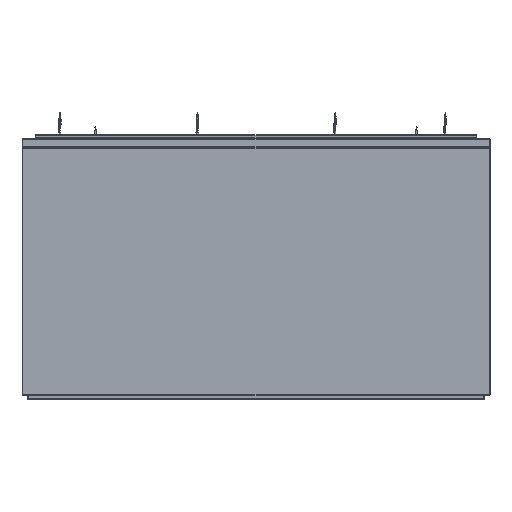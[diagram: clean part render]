
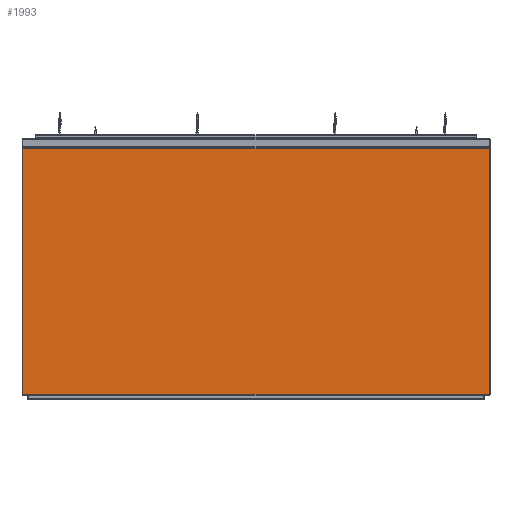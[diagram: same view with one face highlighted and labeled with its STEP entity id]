
A CAD part, top view. The second image highlights one B-rep face of the part: STEP entity #1993.
In plain terms, the highlighted planar face has unit normal (0, 0, 1).
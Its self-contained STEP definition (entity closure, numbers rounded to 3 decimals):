
#1993=ADVANCED_FACE('',(#3822),#31296,.T.);
#3822=FACE_OUTER_BOUND('',#5747,.T.);
#5747=EDGE_LOOP('',(#15184,#15185,#15186,#15187));
#15184=ORIENTED_EDGE('',*,*,#20770,.F.);
#15185=ORIENTED_EDGE('',*,*,#20771,.F.);
#15186=ORIENTED_EDGE('',*,*,#20772,.F.);
#15187=ORIENTED_EDGE('',*,*,#20769,.F.);
#20769=EDGE_CURVE('',#29423,#29424,#26160,.T.);
#20770=EDGE_CURVE('',#29425,#29423,#26161,.T.);
#20771=EDGE_CURVE('',#29426,#29425,#26162,.T.);
#20772=EDGE_CURVE('',#29424,#29426,#26163,.T.);
#26160=B_SPLINE_CURVE_WITH_KNOTS('',1,(#123718,#123719),.UNSPECIFIED.,.F.,
 .F.,(2,2),(-448.,0.),.UNSPECIFIED.);
#26161=B_SPLINE_CURVE_WITH_KNOTS('',1,(#123720,#123721),.UNSPECIFIED.,.F.,
 .F.,(2,2),(-848.,0.),.UNSPECIFIED.);
#26162=B_SPLINE_CURVE_WITH_KNOTS('',1,(#123722,#123723),.UNSPECIFIED.,.F.,
 .F.,(2,2),(-448.,0.),.UNSPECIFIED.);
#26163=B_SPLINE_CURVE_WITH_KNOTS('',1,(#123724,#123725),.UNSPECIFIED.,.F.,
 .F.,(2,2),(-848.,0.),.UNSPECIFIED.);
#29423=VERTEX_POINT('',#123644);
#29424=VERTEX_POINT('',#123645);
#29425=VERTEX_POINT('',#123646);
#29426=VERTEX_POINT('',#123647);
#31296=PLANE('',#32777);
#32777=AXIS2_PLACEMENT_3D('',#123580,#34237,$);
#34237=DIRECTION('',(0.,0.,1.));
#123580=CARTESIAN_POINT('',(-511.928,-298.735,885.822));
#123644=CARTESIAN_POINT('',(420.873,194.065,885.822));
#123645=CARTESIAN_POINT('',(420.873,-253.935,885.822));
#123646=CARTESIAN_POINT('',(-427.127,194.065,885.822));
#123647=CARTESIAN_POINT('',(-427.127,-253.935,885.822));
#123718=CARTESIAN_POINT('',(420.873,194.065,885.822));
#123719=CARTESIAN_POINT('',(420.873,-253.935,885.822));
#123720=CARTESIAN_POINT('',(-427.127,194.065,885.822));
#123721=CARTESIAN_POINT('',(420.873,194.065,885.822));
#123722=CARTESIAN_POINT('',(-427.127,-253.935,885.822));
#123723=CARTESIAN_POINT('',(-427.127,194.065,885.822));
#123724=CARTESIAN_POINT('',(420.873,-253.935,885.822));
#123725=CARTESIAN_POINT('',(-427.127,-253.935,885.822));
